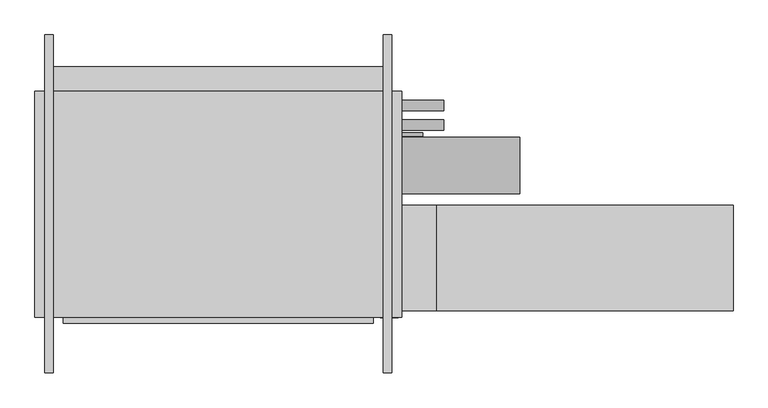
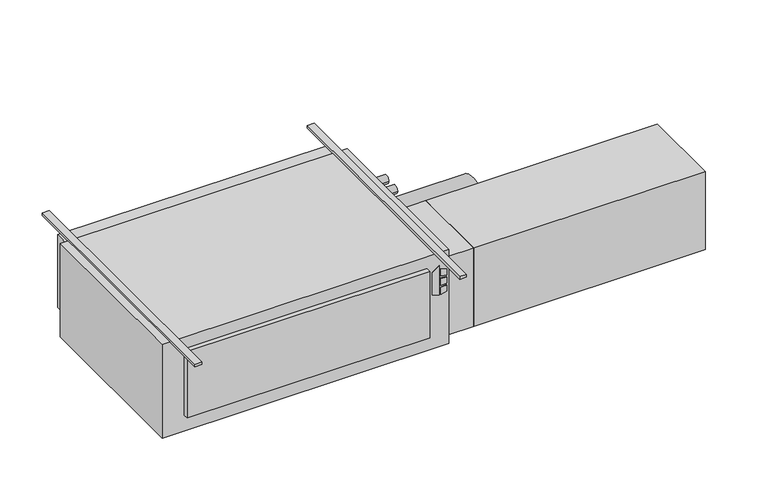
"""IFC4 building model written with IfcOpenShell, lengths in millimetres: proxy geometry."""

from ifc_helpers import new_model, si_unit, point, frame, frame_2d, origin, origin_with_axes, place, context, project, spatial, polyline, circle_curve, trimmed, segment, composite_curve, outline, extrude, source, transform, mapped, element, save


def mechanical_equipment_fc5b764f(model_context):
    return source(origin(), model_context, "Body", "SweptSolid", [
        extrude(outline(polyline([(-193.2519297, 735.0868862), (-203.2, 767.2602728), (-61.0290756, 767.2602728), (-84.0510817, 735.0868862), (-193.2519297, 735.0868862)])), frame((0.0, -647.7, 0.0), z_axis=(0.0, 1.0, 0.0), x_axis=(0.0, 0.0, 1.0)), (0.0, 0.0, 1.0), 3.175),
        extrude(outline(polyline([(-114.2526443, 774.0186058), (-117.4550368, 800.1), (-88.2261958, 800.1), (-80.1617807, 774.0186058), (-114.2526443, 774.0186058)])), frame((0.0, -647.7, 0.0), z_axis=(0.0, 1.0, 0.0), x_axis=(0.0, 0.0, 1.0)), (0.0, 0.0, 1.0), 3.175),
        extrude(outline(polyline([(-166.1161712, 800.1), (-169.7816721, 774.0186058), (-203.2, 774.0186058), (-194.5657628, 800.1), (-166.1161712, 800.1)])), frame((0.0, -647.7, 0.0), z_axis=(0.0, 1.0, 0.0), x_axis=(0.0, 0.0, 1.0)), (0.0, 0.0, 1.0), 3.175),
        extrude(outline(polyline([(-126.8010097, 800.1), (-124.5191834, 774.0186058), (-160.4567319, 774.0186058), (-157.7154669, 800.1), (-126.8010097, 800.1)])), frame((0.0, -647.7, 0.0), z_axis=(0.0, 1.0, 0.0), x_axis=(0.0, 0.0, 1.0)), (0.0, 0.0, 1.0), 3.175),
        extrude(outline(polyline([(711.2, -666.877), (-406.4, -666.877), (-406.4, -644.525), (711.2, -644.525), (711.2, -666.877)])), frame((0.0, 0.0, -381.0), z_axis=(0.0, 0.0, 1.0), x_axis=(1.0, 0.0, 0.0)), (0.0, 0.0, 1.0), 323.85),
        extrude(outline(polyline([(2006.6, -241.3), (2006.6, -622.3), (939.8, -622.3), (939.8, -241.3), (2006.6, -241.3)])), frame((0.0, 0.0, -431.8), z_axis=(0.0, 0.0, 1.0), x_axis=(1.0, 0.0, 0.0)), (0.0, 0.0, 1.0), 381.0),
        extrude(outline(polyline([(939.8, -241.3), (939.8, -622.3), (812.8, -622.3), (812.8, -241.3), (939.8, -241.3)])), frame((0.0, 0.0, -431.8), z_axis=(0.0, 0.0, 1.0), x_axis=(1.0, 0.0, 0.0)), (0.0, 0.0, 1.0), 381.0),
        extrude(outline(composite_curve([segment(trimmed(circle_curve(frame_2d((117.475, -171.45)), 19.05), [point((136.525, -171.45))], [point((98.425, -171.45))], False, "CARTESIAN"), True, "CONTINUOUS"), segment(trimmed(circle_curve(frame_2d((117.475, -171.45)), 19.05), [point((98.425, -171.45))], [point((136.525, -171.45))], False, "CARTESIAN"), True, "CONTINUOUS")], self_intersect=False)), frame((812.8, 0.0, 0.0), z_axis=(1.0, 0.0, 0.0), x_axis=(0.0, 1.0, 0.0)), (0.0, 0.0, 1.0), 152.4),
        extrude(outline(composite_curve([segment(trimmed(circle_curve(frame_2d((47.625, -177.8)), 19.05), [point((66.675, -177.8))], [point((28.575, -177.8))], False, "CARTESIAN"), True, "CONTINUOUS"), segment(trimmed(circle_curve(frame_2d((47.625, -177.8)), 19.05), [point((28.575, -177.8))], [point((66.675, -177.8))], False, "CARTESIAN"), True, "CONTINUOUS")], self_intersect=False)), frame((812.8, 0.0, 0.0), z_axis=(1.0, 0.0, 0.0), x_axis=(0.0, 1.0, 0.0)), (0.0, 0.0, 1.0), 152.4),
        extrude(outline(composite_curve([segment(trimmed(circle_curve(frame_2d((-98.4896516, -228.6360165)), 101.6), [point((3.1103484, -228.6360165))], [point((-200.0896516, -228.6360165))], False, "CARTESIAN"), True, "CONTINUOUS"), segment(trimmed(circle_curve(frame_2d((-98.4896516, -228.6360165)), 101.6), [point((-200.0896516, -228.6360165))], [point((3.1103484, -228.6360165))], False, "CARTESIAN"), True, "CONTINUOUS")], self_intersect=False)), frame((812.8, 0.0, 0.0), z_axis=(1.0, 0.0, 0.0), x_axis=(0.0, 1.0, 0.0)), (0.0, 0.0, 1.0), 425.45),
        extrude(outline(composite_curve([segment(trimmed(circle_curve(frame_2d((12.7, -409.575)), 6.35), [point((19.05, -409.575))], [point((6.35, -409.575))], False, "CARTESIAN"), True, "CONTINUOUS"), segment(trimmed(circle_curve(frame_2d((12.7, -409.575)), 6.35), [point((6.35, -409.575))], [point((19.05, -409.575))], False, "CARTESIAN"), True, "CONTINUOUS")], self_intersect=False)), frame((812.8, 0.0, 0.0), z_axis=(1.0, 0.0, 0.0), x_axis=(0.0, 1.0, 0.0)), (0.0, 0.0, 1.0), 76.2),
        extrude(outline(polyline([(812.8, 168.275), (812.8, -644.525), (-508.0, -644.525), (-508.0, 168.275), (812.8, 168.275)])), frame((0.0, 0.0, -457.2), z_axis=(0.0, 0.0, 1.0), x_axis=(1.0, 0.0, 0.0)), (0.0, 0.0, 1.0), 457.2),
        extrude(outline(polyline([(-469.9, 257.175), (774.7, 257.175), (774.7, 168.275), (-469.9, 168.275), (-469.9, 257.175)])), frame((0.0, 0.0, -381.0), z_axis=(0.0, 0.0, 1.0), x_axis=(1.0, 0.0, 0.0)), (0.0, 0.0, 1.0), 355.6),
        extrude(outline(polyline([(-441.325, 371.475), (-441.325, -844.677), (-473.075, -844.677), (-473.075, 371.475), (-441.325, 371.475)])), origin_with_axes(), (0.0, 0.0, 1.0), 12.7),
        extrude(outline(polyline([(777.875, 371.475), (777.875, -844.677), (746.125, -844.677), (746.125, 371.475), (777.875, 371.475)])), origin_with_axes(), (0.0, 0.0, 1.0), 12.7),
    ])


if __name__ == "__main__":
    model = new_model("IFC4")
    model_context = context("Model", 3, world=origin())
    ifc_project = project(units=[si_unit("LENGTHUNIT", "METRE", prefix="MILLI")], contexts=[model_context])
    site = spatial("IfcSite", under=ifc_project)
    building = spatial("IfcBuilding", under=site)
    placement = place(None, origin())
    mechanical_equipment_shape = mechanical_equipment_fc5b764f(model_context)
    element("IfcBuildingElementProxy", 1, Name="High_Capacity_Horizontal_Cabinet_Fan_Coil_Unit_-_HTY_-_IEC_-_2-Pipe_WO-Attenuator_RH Side_2022 : Size 18 - 277v/60Hz/1Ph - 8/0 Coil - 8\" AirIn", ObjectType="High_Capacity_Horizontal_Cabinet_Fan_Coil_Unit_-_HTY_-_IEC_-_2-Pipe_WO-Attenuator_RH Side_2022 : Size 18 - 277v/60Hz/1Ph - 8/0 Coil - 8\" AirIn", at=placement, inside=building, context=model_context, shape_type="MappedRepresentation", body=[
        mapped(mechanical_equipment_shape, transform((0.0, 0.0, 0.0), x_axis=(1.0, 0.0, 0.0), y_axis=(0.0, 1.0, 0.0), z_axis=(0.0, 0.0, 1.0))),
    ])
    save(model, "model.ifc")
